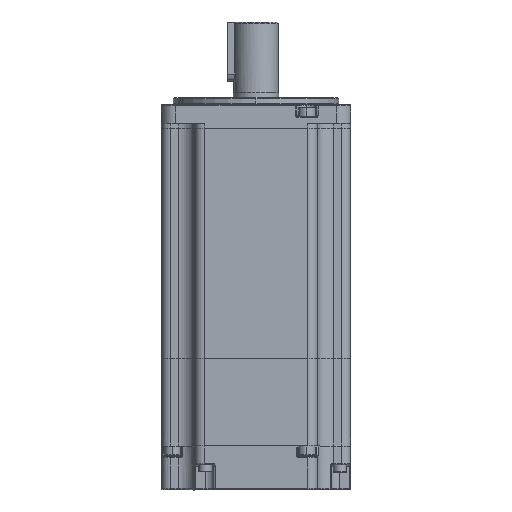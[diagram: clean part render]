
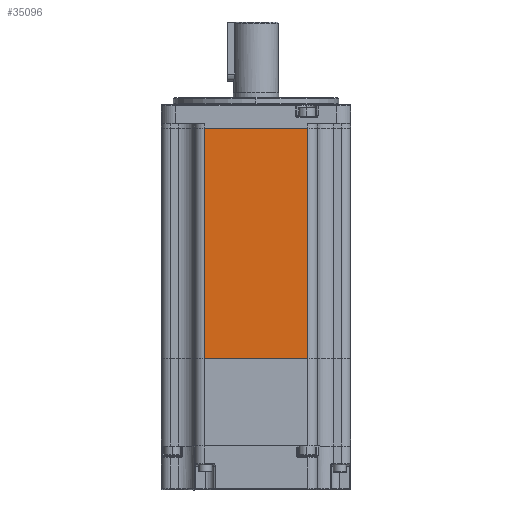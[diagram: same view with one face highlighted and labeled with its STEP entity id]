
A CAD part, top view. The second image highlights one B-rep face of the part: STEP entity #35096.
In plain terms, the highlighted planar face has unit normal (0, 0, 1) as drawn and (-1, 0, 0) by its records, which use the part's own axes.
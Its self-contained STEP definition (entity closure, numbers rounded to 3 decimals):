
#7423 = VERTEX_POINT ( 'NONE', #138974 ) ;
#14734 = DIRECTION ( 'NONE',  ( 0., -1., 0. ) ) ;
#18550 = ORIENTED_EDGE ( 'NONE', *, *, #51980, .F. ) ;
#27353 = LINE ( 'NONE', #58945, #174835 ) ;
#27892 = EDGE_CURVE ( 'NONE', #207353, #79345, #99759, .T. ) ;
#35096 = ADVANCED_FACE ( 'NONE', ( #101105 ), #42272, .F. ) ;
#35864 = DIRECTION ( 'NONE',  ( 0., 0., -1. ) ) ;
#39989 = ORIENTED_EDGE ( 'NONE', *, *, #149030, .F. ) ;
#42272 = PLANE ( 'NONE',  #103625 ) ;
#50104 = EDGE_LOOP ( 'NONE', ( #79844, #39989, #161961, #18550 ) ) ;
#51980 = EDGE_CURVE ( 'NONE', #80046, #79345, #78896, .T. ) ;
#55976 = CARTESIAN_POINT ( 'NONE',  ( -40., -22., 0. ) ) ;
#58945 = CARTESIAN_POINT ( 'NONE',  ( -40., 22., 97.5 ) ) ;
#62922 = VECTOR ( 'NONE', #196803, 1000. ) ;
#65222 = CARTESIAN_POINT ( 'NONE',  ( -40., -22., 97.5 ) ) ;
#76530 = DIRECTION ( 'NONE',  ( 1., 0., 0. ) ) ;
#78896 = LINE ( 'NONE', #65222, #199007 ) ;
#79345 = VERTEX_POINT ( 'NONE', #55976 ) ;
#79844 = ORIENTED_EDGE ( 'NONE', *, *, #178413, .F. ) ;
#80046 = VERTEX_POINT ( 'NONE', #161526 ) ;
#87299 = CARTESIAN_POINT ( 'NONE',  ( -40., 22., 0. ) ) ;
#99759 = LINE ( 'NONE', #190865, #167269 ) ;
#101105 = FACE_OUTER_BOUND ( 'NONE', #50104, .T. ) ;
#103625 = AXIS2_PLACEMENT_3D ( 'NONE', #156193, #76530, #204390 ) ;
#116476 = CARTESIAN_POINT ( 'NONE',  ( -40., 33., 97.5 ) ) ;
#138974 = CARTESIAN_POINT ( 'NONE',  ( -40., 22., 97.5 ) ) ;
#149030 = EDGE_CURVE ( 'NONE', #207353, #7423, #27353, .T. ) ;
#152951 = LINE ( 'NONE', #116476, #62922 ) ;
#156193 = CARTESIAN_POINT ( 'NONE',  ( -40., -22., 97.5 ) ) ;
#161526 = CARTESIAN_POINT ( 'NONE',  ( -40., -22., 97.5 ) ) ;
#161961 = ORIENTED_EDGE ( 'NONE', *, *, #27892, .T. ) ;
#167269 = VECTOR ( 'NONE', #14734, 1000. ) ;
#170700 = DIRECTION ( 'NONE',  ( 0., 0., 1. ) ) ;
#174835 = VECTOR ( 'NONE', #170700, 1000. ) ;
#178413 = EDGE_CURVE ( 'NONE', #7423, #80046, #152951, .T. ) ;
#190865 = CARTESIAN_POINT ( 'NONE',  ( -40., 33., 0. ) ) ;
#196803 = DIRECTION ( 'NONE',  ( 0., -1., 0. ) ) ;
#199007 = VECTOR ( 'NONE', #35864, 1000. ) ;
#204390 = DIRECTION ( 'NONE',  ( 0., 0., -1. ) ) ;
#207353 = VERTEX_POINT ( 'NONE', #87299 ) ;
